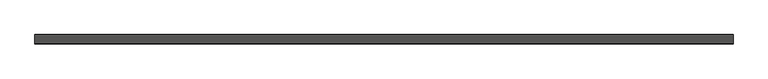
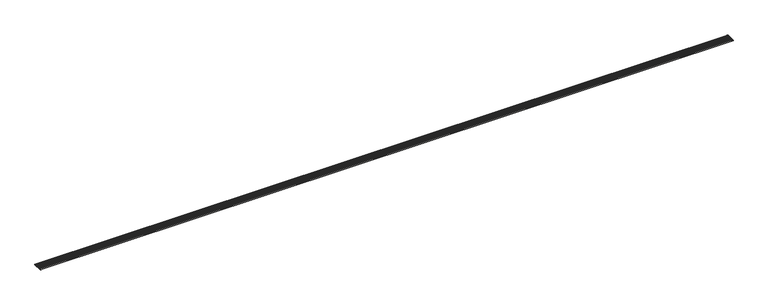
"""IFC4 building model written with IfcOpenShell, lengths in millimetres: slab geometry, ROSA GRES_003 : Pieza 003_Aqua_Marino_Anti-Slip."""

from ifc_helpers import new_model, si_unit, point, frame, frame_2d, origin, place, context, project, spatial, polyline, circle_curve, trimmed, segment, composite_curve, outline, extrude, source, transform, mapped, element, save


def slab_ee71dc46(model_context):
    return source(origin(), model_context, "Body", "SweptSolid", [
        extrude(outline(composite_curve([segment(polyline([(7.6419163, 9.4971975), (13.1748183, 9.4971975), (13.1748183, 4.0921512), (114.6668888, 4.0921512), (114.6668888, 10.0184612)]), True, "CONTINUOUS"), segment(trimmed(circle_curve(frame_2d((118.9168888, 13.6516438)), 5.5912893), [point((114.6668888, 10.0184612))], [point((118.9168888, 8.0603545))], True, "CARTESIAN"), True, "CONTINUOUS"), segment(polyline([(118.9168888, 8.0603545), (118.9168888, 0.0), (1.8518481, 0.0), (0.5422562, 1.309592)]), True, "CONTINUOUS"), segment(trimmed(circle_curve(frame_2d((1.9104791, 2.6778148)), 1.9349594), [point((0.5422562, 1.309592))], [point((0.0, 2.9846331))], False, "CARTESIAN"), True, "CONTINUOUS"), segment(trimmed(circle_curve(frame_2d((7.6419163, 1.7573601)), 7.7398374), [point((0.0, 2.9846331))], [point((7.6419163, 9.4971975))], False, "CARTESIAN"), True, "CONTINUOUS")], self_intersect=False)), frame((0.0, 0.0, 0.0), z_axis=(1.0, 0.0, 0.0), x_axis=(0.0, 1.0, 0.0)), (0.0, 0.0, 1.0), 8981.4075967),
        extrude(outline(composite_curve([segment(trimmed(circle_curve(frame_2d((110.4168888, 13.6516438)), 5.5912893), [point((106.1668888, 10.0184612))], [point((114.6668888, 10.0184612))], True, "CARTESIAN"), True, "CONTINUOUS"), segment(polyline([(114.6668888, 10.0184612), (114.6668888, 4.0921512), (106.1668888, 4.0921512), (106.1668888, 10.0184612)]), True, "CONTINUOUS")], self_intersect=False)), frame((0.0, 0.0, 0.0), z_axis=(1.0, 0.0, 0.0), x_axis=(0.0, 1.0, 0.0)), (0.0, 0.0, 1.0), 8981.4075967),
        extrude(outline(polyline([(8.5, 0.0), (-8.5, 0.0), (-8.5, 8981.4075967), (8.5, 8981.4075967), (8.5, 0.0)])), frame((8981.4075967, 80.6668888, 4.0921512), z_axis=(0.0, 5.4412704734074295e-12, 1.0), x_axis=(0.0, 1.0, -5.4412704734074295e-12)), (0.0, 0.0, 1.0), 2.92631),
        extrude(outline(polyline([(8.5, 0.0), (-8.5, 0.0), (-8.5, 8981.4075967), (8.5, 8981.4075967), (8.5, 0.0)])), frame((8981.4075967, 46.6668888, 4.0921512), z_axis=(0.0, 5.441239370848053e-12, 1.0), x_axis=(0.0, 1.0, -5.441239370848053e-12)), (0.0, 0.0, 1.0), 2.92631),
        extrude(outline(composite_curve([segment(trimmed(circle_curve(frame_2d((16.9168888, 13.6516438)), 5.5912893), [point((13.1748183, 9.4971975))], [point((21.1668888, 10.0184612))], True, "CARTESIAN"), True, "CONTINUOUS"), segment(polyline([(21.1668888, 10.0184612), (21.1668888, 4.0921512), (13.1748183, 4.0921512), (13.1748183, 9.4971975)]), True, "CONTINUOUS")], self_intersect=False)), frame((0.0, 0.0, 0.0), z_axis=(1.0, 0.0, 0.0), x_axis=(0.0, 1.0, 0.0)), (0.0, 0.0, 1.0), 8981.4075967),
        extrude(outline(composite_curve([segment(trimmed(circle_curve(frame_2d((25.4168888, 13.6553338)), 5.5912893), [point((21.1668888, 10.0221512))], [point((29.6668888, 10.0221512))], True, "CARTESIAN"), True, "CONTINUOUS"), segment(trimmed(circle_curve(frame_2d((33.9168888, 13.6553338)), 5.5912893), [point((29.6668888, 10.0221512))], [point((38.1668888, 10.0221512))], True, "CARTESIAN"), True, "CONTINUOUS"), segment(trimmed(circle_curve(frame_2d((42.4168888, 13.6553338)), 5.5912893), [point((38.1668888, 10.0221512))], [point((46.6668888, 10.0221512))], True, "CARTESIAN"), True, "CONTINUOUS"), segment(trimmed(circle_curve(frame_2d((50.9168888, 13.6553338)), 5.5912893), [point((46.6668888, 10.0221512))], [point((55.1668888, 10.0221512))], True, "CARTESIAN"), True, "CONTINUOUS"), segment(trimmed(circle_curve(frame_2d((59.4168888, 13.6553338)), 5.5912893), [point((55.1668888, 10.0221512))], [point((63.6668888, 10.0221512))], True, "CARTESIAN"), True, "CONTINUOUS"), segment(trimmed(circle_curve(frame_2d((67.9168888, 13.6553338)), 5.5912893), [point((63.6668888, 10.0221512))], [point((72.1668888, 10.0221512))], True, "CARTESIAN"), True, "CONTINUOUS"), segment(trimmed(circle_curve(frame_2d((76.4168888, 13.6553338)), 5.5912893), [point((72.1668888, 10.0221512))], [point((80.6668888, 10.0221512))], True, "CARTESIAN"), True, "CONTINUOUS"), segment(trimmed(circle_curve(frame_2d((84.9168888, 13.6553338)), 5.5912893), [point((80.6668888, 10.0221512))], [point((89.1668888, 10.0221512))], True, "CARTESIAN"), True, "CONTINUOUS"), segment(trimmed(circle_curve(frame_2d((93.4168888, 13.6553338)), 5.5912893), [point((89.1668888, 10.0221512))], [point((97.6668888, 10.0221512))], True, "CARTESIAN"), True, "CONTINUOUS"), segment(trimmed(circle_curve(frame_2d((101.9168888, 13.6553338)), 5.5912893), [point((97.6668888, 10.0221512))], [point((106.1668888, 10.0221512))], True, "CARTESIAN"), True, "CONTINUOUS"), segment(polyline([(106.1668888, 10.0221512), (106.1668888, 4.0921512), (89.1668888, 4.0921512), (89.1668888, 7.0184612), (72.1668888, 7.0184612), (72.1668888, 4.0921512), (55.1668888, 4.0921512), (55.1668888, 7.0184612), (38.1668888, 7.0184612), (38.1668888, 4.0921512), (21.1668888, 4.0921512), (21.1668888, 10.0221512)]), True, "CONTINUOUS")], self_intersect=False)), frame((0.0, 0.0, 0.0), z_axis=(1.0, 0.0, 0.0), x_axis=(0.0, 1.0, 0.0)), (0.0, 0.0, 1.0), 8981.4075967),
    ])


if __name__ == "__main__":
    model = new_model("IFC4")
    model_context = context("Model", 3, world=origin())
    ifc_project = project(units=[si_unit("LENGTHUNIT", "METRE", prefix="MILLI")], contexts=[model_context])
    site = spatial("IfcSite", under=ifc_project)
    building = spatial("IfcBuilding", under=site)
    placement = place(None, origin())
    slab_shape = slab_ee71dc46(model_context)
    element("IfcSlab", 1, ObjectType="ROSA GRES_003 : Pieza 003_Aqua_Marino_Anti-Slip", at=placement, inside=building, context=model_context, shape_type="MappedRepresentation", body=[
        mapped(slab_shape, transform((0.0, 0.0, 0.0), x_axis=(1.0, 0.0, 0.0), y_axis=(0.0, 1.0, 0.0), z_axis=(0.0, 0.0, 1.0))),
    ])
    save(model, "model.ifc")
